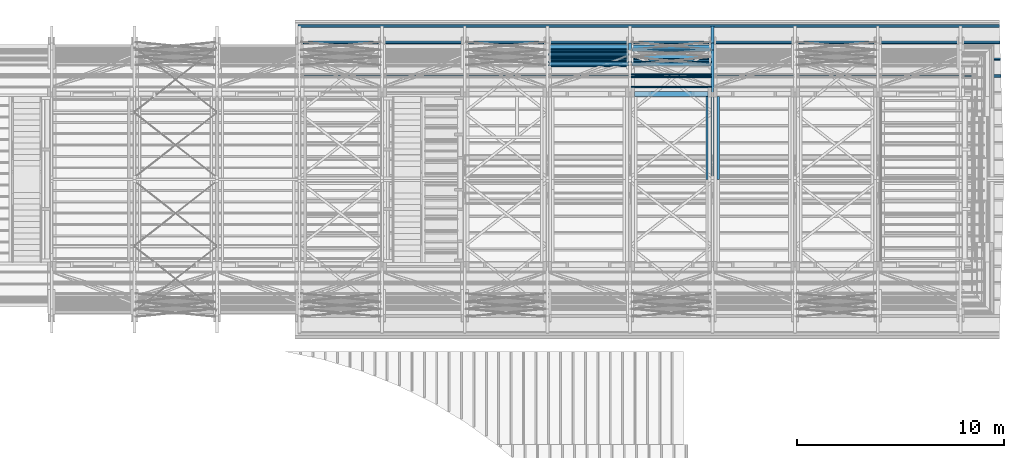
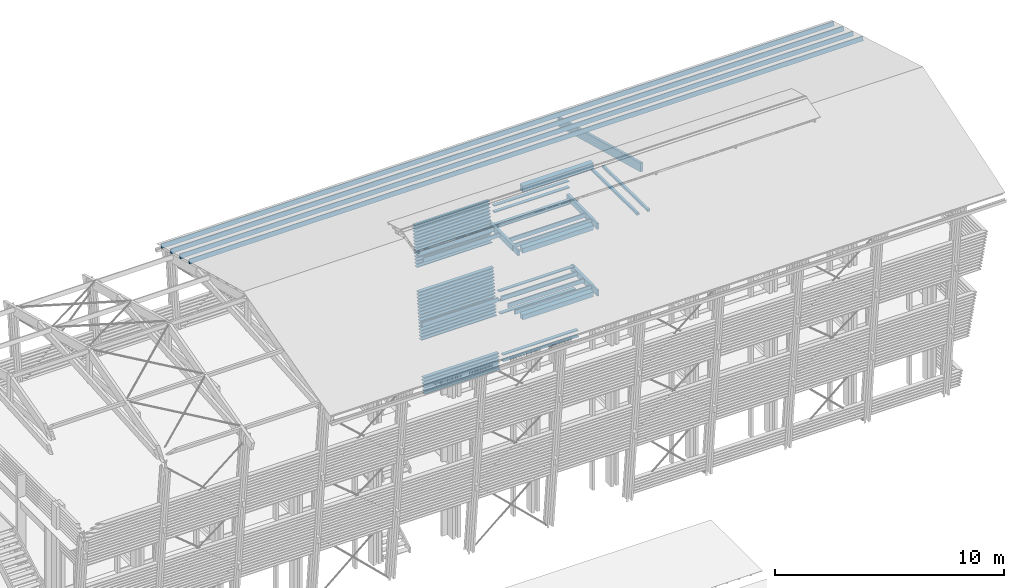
# One storey, part 24 of 48: 66 beams.
"""IFC2X3 building model written with IfcOpenShell, lengths in metres."""

from ifc_helpers import new_model, si_unit, direction, frame, origin_with_axes, place, context, subcontext, project, spatial, faceted_brep, material, element, save


model = new_model("IFC2X3")

# Units and contexts
model_context = context("Model", 3, precision=1e-06, world=origin_with_axes(), true_north=direction((0.0, 1.0, 0.0)))
body_context = subcontext(model_context, "Body", "Model", "MODEL_VIEW")
ifc_project = project(units=[si_unit("LENGTHUNIT", "METRE"), si_unit("AREAUNIT", "SQUARE_METRE"), si_unit("VOLUMEUNIT", "CUBIC_METRE"), si_unit("PLANEANGLEUNIT", "RADIAN")], contexts=[model_context])

# Site, building, storey
site_placement = place(None, origin_with_axes())
site = spatial("IfcSite", under=ifc_project, at=site_placement, CompositionType="ELEMENT")
building_placement = place(site_placement, origin_with_axes())
building = spatial("IfcBuilding", under=site, at=building_placement, Name="Building 1", CompositionType="ELEMENT")
storey_placement = place(building_placement, origin_with_axes())
storey = spatial("IfcBuildingStorey", under=building, at=storey_placement, Name="Storey 1", CompositionType="ELEMENT", Elevation=0.0)

# Beams
ifc_material_1 = material(Name="Moabi")
beam_1_placement = place(storey_placement, frame((57.3927441, -182.8370582, 8.3510909), z_axis=(0.0, -0.9945219, 0.1045285), x_axis=(-1.0, 0.0, 0.0)))
element("IfcBeam", 1, at=beam_1_placement, inside=storey, material=ifc_material_1, Name="garde corp", context=body_context, shape_type="Brep", body=[
    faceted_brep([(3.806, -0.02, 0.1), (3.806, 0.02, 0.1), (0.0, 0.02, 0.1), (0.0, -0.02, 0.1), (3.806, 0.02, -0.1), (0.0, 0.02, -0.1), (3.806, -0.02, -0.1), (0.0, -0.02, -0.1)], [[[0, 1, 2, 3]], [[1, 4, 5, 2]], [[4, 6, 7, 5]], [[6, 0, 3, 7]], [[1, 0, 6, 4]], [[7, 3, 2, 5]]]),
])
ifc_material_2 = material(Name="GL28h")
beam_2_placement = place(storey_placement, frame((57.4897437, -185.2264881, 7.649), z_axis=(0.0, 0.0, 1.0), x_axis=(0.0, 1.0, 0.0)))
element("IfcBeam", 2, at=beam_2_placement, inside=storey, material=ifc_material_2, Name="Sommier Coursive", context=body_context, shape_type="Brep", body=[
    faceted_brep([(0.0, -0.05, -0.16), (0.44, -0.05, -0.16), (0.44, -0.05, 0.16), (0.0, -0.05, 0.16), (0.44, -0.07, -0.16), (0.44, -0.07, 0.16), (0.0, 0.05, 0.16), (0.0, 0.05, -0.16), (2.6285375, -0.07, 0.16), (2.6285375, 0.07, 0.16), (0.44, 0.07, 0.16), (0.44, 0.05, 0.16), (0.44, 0.05, -0.16), (0.44, 0.07, -0.16), (2.6285375, -0.07, -0.16), (2.6285375, 0.07, -0.16)], [[[0, 1, 2, 3]], [[1, 4, 5, 2]], [[0, 3, 6, 7]], [[3, 2, 5, 8, 9, 10, 11, 6]], [[6, 11, 12, 7]], [[11, 10, 13, 12]], [[5, 4, 14, 8]], [[1, 0, 7, 12, 13, 15, 14, 4]], [[13, 10, 9, 15]], [[9, 8, 14, 15]]]),
])
for number, where, z_axis, x_axis, name in (
    (3, (57.3927441, -182.9039564, 7.7145968), (0.0, -0.9945219, 0.1045285), (-1.0, 0.0, 0.0), "garde corp"),
    (4, (57.3927441, -183.6231123, 0.8722862), (0.0, -0.9945219, 0.1045285), (-1.0, 0.0, 0.0), "garde corp"),
):
    element("IfcBeam", number, at=place(storey_placement, frame(where, z_axis=z_axis, x_axis=x_axis)), inside=storey, material=ifc_material_1, Name=name, context=body_context, shape_type="Brep", body=[
        faceted_brep([(3.806, -0.02, 0.1), (3.806, 0.02, 0.1), (0.0, 0.02, 0.1), (0.0, -0.02, 0.1), (3.806, 0.02, -0.1), (0.0, 0.02, -0.1), (3.806, -0.02, -0.1), (0.0, -0.02, -0.1)], [[[0, 1, 2, 3]], [[1, 4, 5, 2]], [[4, 6, 7, 5]], [[6, 0, 3, 7]], [[1, 0, 6, 4]], [[7, 3, 2, 5]]]),
    ])
beam_3_placement = place(storey_placement, frame((57.3927439, -183.2551721, 4.3730033), z_axis=(0.0, -0.9945219, 0.1045285), x_axis=(-1.0, 0.0, 0.0)))
element("IfcBeam", 5, at=beam_3_placement, inside=storey, material=ifc_material_1, Name="garde corp", context=body_context, shape_type="Brep", body=[
    faceted_brep([(3.8048051, -0.02, 0.1), (3.8048051, 0.02, 0.1), (0.0, 0.02, 0.1), (0.0, -0.02, 0.1), (3.8048051, 0.02, -0.1), (0.0, 0.02, -0.1), (3.8048051, -0.02, -0.1), (0.0, -0.02, -0.1)], [[[0, 1, 2, 3]], [[1, 4, 5, 2]], [[4, 6, 7, 5]], [[6, 0, 3, 7]], [[1, 0, 6, 4]], [[7, 3, 2, 5]]]),
])
beam_4_placement = place(storey_placement, frame((71.4526792, -184.200984, 12.1835011), z_axis=(0.0, 0.258819, 0.9659258), x_axis=(-1.0, 0.0, 0.0)))
element("IfcBeam", 6, at=beam_4_placement, inside=storey, material=ifc_material_2, Name="pannes", context=body_context, shape_type="Brep", body=[
    faceted_brep([(0.0016292, 0.035, 0.11), (0.0, 0.035, -0.11), (0.0019346, -0.035, -0.11), (0.0035637, -0.035, 0.11), (34.0329355, 0.035, -0.11), (34.0329355, -0.035, -0.11), (34.0329355, 0.035, 0.11), (34.0329355, -0.035, 0.11)], [[[0, 1, 2, 3]], [[2, 1, 4, 5]], [[1, 0, 6, 4]], [[0, 3, 7, 6]], [[3, 2, 5, 7]], [[4, 6, 7, 5]]]),
])
beam_5_placement = place(storey_placement, frame((71.4068021, -182.5878878, 11.7512733), z_axis=(0.0, 0.258819, 0.9659258), x_axis=(-1.0, 0.0, 0.0)))
element("IfcBeam", 7, at=beam_5_placement, inside=storey, material=ifc_material_2, Name="pannes", context=body_context, shape_type="Brep", body=[
    faceted_brep([(0.0041165, -0.045, 0.11), (0.0016292, 0.045, 0.11), (0.0, 0.045, -0.11), (0.0024873, -0.045, -0.11), (33.9870584, 0.045, 0.11), (33.9870584, 0.045, -0.11), (33.9870584, -0.045, 0.11), (33.9870584, -0.045, -0.11)], [[[0, 1, 2, 3]], [[2, 1, 4, 5]], [[1, 0, 6, 4]], [[0, 3, 7, 6]], [[3, 2, 5, 7]], [[4, 6, 7, 5]]]),
])
beam_6_placement = place(storey_placement, frame((71.4296024, -183.3944359, 11.9673872), z_axis=(0.0, 0.258819, 0.9659258), x_axis=(-1.0, 0.0, 0.0)))
element("IfcBeam", 8, at=beam_6_placement, inside=storey, material=ifc_material_2, Name="pannes", context=body_context, shape_type="Brep", body=[
    faceted_brep([(0.0016292, 0.035, 0.11), (0.0, 0.035, -0.11), (0.0019346, -0.035, -0.11), (0.0035637, -0.035, 0.11), (34.0098587, 0.035, -0.11), (34.0098587, -0.035, -0.11), (34.0098587, 0.035, 0.11), (34.0098587, -0.035, 0.11)], [[[0, 1, 2, 3]], [[2, 1, 4, 5]], [[1, 0, 6, 4]], [[0, 3, 7, 6]], [[3, 2, 5, 7]], [[4, 6, 7, 5]]]),
])
beam_7_placement = place(storey_placement, frame((71.383449, -181.7813398, 11.5351594), z_axis=(0.0, 0.258819, 0.9659258), x_axis=(-1.0, 0.0, 0.0)))
element("IfcBeam", 9, at=beam_7_placement, inside=storey, material=ifc_material_2, Name="pannes", context=body_context, shape_type="Brep", body=[
    faceted_brep([(0.0, 0.035, -0.11), (0.0019346, -0.035, -0.11), (0.0035637, -0.035, 0.11), (0.0016292, 0.035, 0.11), (33.9637053, -0.035, -0.11), (33.9637053, -0.035, 0.11), (33.9637053, 0.035, -0.11), (33.9637053, 0.035, 0.11)], [[[0, 1, 2, 3]], [[2, 1, 4, 5]], [[1, 0, 6, 4]], [[0, 3, 7, 6]], [[3, 2, 5, 7]], [[6, 7, 5, 4]]]),
])
beam_8_placement = place(storey_placement, frame((57.2197437, -185.2055702, 10.7599677), z_axis=(0.0, 0.0149983, 0.9998875), x_axis=(0.0, -0.9998875, 0.0149983)))
element("IfcBeam", 10, at=beam_8_placement, inside=storey, material=ifc_material_2, Name="Sous-glace", context=body_context, shape_type="Brep", body=[
    faceted_brep([(4.0038138, -0.06, 0.06), (4.0020138, -0.06, -0.06), (4.0020138, 0.06, -0.06), (4.0038138, 0.06, 0.06), (0.0, -0.06, -0.06), (0.0, 0.06, -0.06), (0.0018, -0.06, 0.06), (0.0018, 0.06, 0.06)], [[[0, 1, 2, 3]], [[2, 1, 4, 5]], [[1, 0, 6, 4]], [[5, 4, 6, 7]], [[0, 3, 7, 6]], [[3, 2, 5, 7]]]),
])
beam_9_placement = place(storey_placement, frame((57.3927437, -182.8036091, 8.6693379), z_axis=(0.0, -0.9945219, 0.1045285), x_axis=(-1.0, 0.0, 0.0)))
element("IfcBeam", 11, at=beam_9_placement, inside=storey, material=ifc_material_1, Name="garde corp", context=body_context, shape_type="Brep", body=[
    faceted_brep([(3.806, -0.02, 0.1), (3.806, 0.02, 0.1), (0.0, 0.02, 0.1), (0.0, -0.02, 0.1), (3.806, 0.02, -0.1), (0.0, 0.02, -0.1), (3.806, -0.02, -0.1), (0.0, -0.02, -0.1)], [[[0, 1, 2, 3]], [[1, 4, 5, 2]], [[4, 6, 7, 5]], [[6, 0, 3, 7]], [[1, 0, 6, 4]], [[7, 3, 2, 5]]]),
])
beam_10_placement = place(storey_placement, frame((57.7597437, -185.2055702, 10.7599682), z_axis=(0.0, 0.0149983, 0.9998875), x_axis=(0.0, -0.9998875, 0.0149983)))
element("IfcBeam", 12, at=beam_10_placement, inside=storey, material=ifc_material_2, Name="Sous-glace", context=body_context, shape_type="Brep", body=[
    faceted_brep([(4.0038138, -0.06, 0.06), (4.0020138, -0.06, -0.06), (4.0020138, 0.06, -0.06), (4.0038138, 0.06, 0.06), (0.0, -0.06, -0.06), (0.0, 0.06, -0.06), (0.0018, -0.06, 0.06), (0.0018, 0.06, 0.06)], [[[0, 1, 2, 3]], [[2, 1, 4, 5]], [[1, 0, 6, 4]], [[5, 4, 6, 7]], [[0, 3, 7, 6]], [[3, 2, 5, 7]]]),
])
beam_11_placement = place(storey_placement, frame((53.5597437, -183.5174506, 4.139), z_axis=(0.0, 0.0, 1.0), x_axis=(1.0, 0.0, 0.0)))
element("IfcBeam", 13, at=beam_11_placement, inside=storey, material=ifc_material_2, Name="Solive", context=body_context, shape_type="Brep", body=[
    faceted_brep([(3.86, 0.035, 0.11), (3.86, 0.035, -0.11), (0.0, 0.035, -0.11), (0.0, 0.035, 0.11), (3.86, -0.035, -0.11), (0.0, -0.035, -0.11), (3.86, -0.035, 0.11), (0.0, -0.035, 0.11)], [[[0, 1, 2, 3]], [[1, 4, 5, 2]], [[4, 6, 7, 5]], [[6, 0, 3, 7]], [[1, 0, 6, 4]], [[7, 3, 2, 5]]]),
])
beam_12_placement = place(storey_placement, frame((53.3927437, -182.8036091, 8.6693379), z_axis=(0.0, -0.9945219, 0.1045285), x_axis=(-1.0, 0.0, 0.0)))
element("IfcBeam", 14, at=beam_12_placement, inside=storey, material=ifc_material_1, Name="garde corp", context=body_context, shape_type="Brep", body=[
    faceted_brep([(3.806, -0.02, 0.1), (3.806, 0.02, 0.1), (0.0, 0.02, 0.1), (0.0, -0.02, 0.1), (3.806, 0.02, -0.1), (0.0, 0.02, -0.1), (3.806, -0.02, -0.1), (0.0, -0.02, -0.1)], [[[0, 1, 2, 3]], [[1, 4, 5, 2]], [[4, 6, 7, 5]], [[6, 0, 3, 7]], [[1, 0, 6, 4]], [[7, 3, 2, 5]]]),
])
beam_13_placement = place(storey_placement, frame((53.3927439, -183.3220703, 3.7365093), z_axis=(0.0, -0.9945219, 0.1045285), x_axis=(-1.0, 0.0, 0.0)))
element("IfcBeam", 15, at=beam_13_placement, inside=storey, material=ifc_material_1, Name="garde corp", context=body_context, shape_type="Brep", body=[
    faceted_brep([(3.8047073, -0.02, 0.1), (3.8047077, 0.02, 0.1), (0.0, 0.02, 0.1), (0.0, -0.02, 0.1), (3.8047077, 0.02, -0.1), (0.0, 0.02, -0.1), (3.8047077, -0.02, -0.1), (0.0, -0.02, -0.1)], [[[0, 1, 2, 3]], [[1, 4, 5, 2]], [[4, 6, 7, 5]], [[6, 0, 3, 7]], [[1, 0, 6, 4]], [[7, 3, 2, 5]]]),
])
beam_14_placement = place(storey_placement, frame((53.3927439, -183.1715493, 5.1686208), z_axis=(0.0, -0.9945219, 0.1045285), x_axis=(-1.0, 0.0, 0.0)))
element("IfcBeam", 16, at=beam_14_placement, inside=storey, material=ifc_material_1, Name="garde corp", context=body_context, shape_type="Brep", body=[
    faceted_brep([(3.8048053, -0.02, 0.1), (3.8048053, 0.02, 0.1), (0.0, 0.02, 0.1), (0.0, -0.02, 0.1), (3.8048051, 0.02, -0.1), (0.0, 0.02, -0.1), (3.8048053, -0.02, -0.1), (0.0, -0.02, -0.1)], [[[0, 1, 2, 3]], [[1, 4, 5, 2]], [[4, 6, 7, 5]], [[6, 0, 3, 7]], [[1, 0, 6, 4]], [[7, 3, 2, 5]]]),
])
beam_15_placement = place(storey_placement, frame((53.3927441, -183.6231123, 0.8722862), z_axis=(0.0, -0.9945219, 0.1045285), x_axis=(-1.0, 0.0, 0.0)))
element("IfcBeam", 17, at=beam_15_placement, inside=storey, material=ifc_material_1, Name="garde corp", context=body_context, shape_type="Brep", body=[
    faceted_brep([(3.806, -0.02, 0.1), (3.806, 0.02, 0.1), (0.0, 0.02, 0.1), (0.0, -0.02, 0.1), (3.806, 0.02, -0.1), (0.0, 0.02, -0.1), (3.806, -0.02, -0.1), (0.0, -0.02, -0.1)], [[[0, 1, 2, 3]], [[1, 4, 5, 2]], [[4, 6, 7, 5]], [[6, 0, 3, 7]], [[1, 0, 6, 4]], [[7, 3, 2, 5]]]),
])
beam_16_placement = place(storey_placement, frame((57.3927439, -183.3722439, 3.2591388), z_axis=(0.0, -0.9945219, 0.1045285), x_axis=(-1.0, 0.0, 0.0)))
element("IfcBeam", 18, at=beam_16_placement, inside=storey, material=ifc_material_1, Name="garde corp", context=body_context, shape_type="Brep", body=[
    faceted_brep([(3.8048051, -0.02, 0.1), (3.8048051, 0.02, 0.1), (0.0, 0.02, 0.1), (0.0, -0.02, 0.1), (3.8048051, 0.02, -0.1), (0.0, 0.02, -0.1), (3.8048051, -0.02, -0.1), (0.0, -0.02, -0.1)], [[[0, 1, 2, 3]], [[1, 4, 5, 2]], [[4, 6, 7, 5]], [[6, 0, 3, 7]], [[1, 0, 6, 4]], [[7, 3, 2, 5]]]),
])
beam_17_placement = place(storey_placement, frame((57.3927439, -183.3053457, 3.8956328), z_axis=(0.0, -0.9945219, 0.1045285), x_axis=(-1.0, 0.0, 0.0)))
element("IfcBeam", 19, at=beam_17_placement, inside=storey, material=ifc_material_1, Name="garde corp", context=body_context, shape_type="Brep", body=[
    faceted_brep([(3.8047073, -0.02, 0.1), (3.8047075, 0.02, 0.1), (0.0, 0.02, 0.1), (0.0, -0.02, 0.1), (3.8047077, 0.02, -0.1), (0.0, 0.02, -0.1), (3.8047077, -0.02, -0.1), (0.0, -0.02, -0.1)], [[[0, 1, 2, 3]], [[1, 4, 5, 2]], [[4, 6, 7, 5]], [[6, 0, 3, 7]], [[1, 0, 6, 4]], [[7, 3, 2, 5]]]),
])
for number, where, z_axis, x_axis, name in (
    (20, (57.3927441, -182.920681, 7.5554733), (0.0, -0.9945219, 0.1045285), (-1.0, 0.0, 0.0), "garde corp"),
    (21, (57.3927441, -183.5896631, 1.1905332), (0.0, -0.9945219, 0.1045285), (-1.0, 0.0, 0.0), "garde corp"),
    (22, (53.3927441, -183.6398368, 0.7131627), (0.0, -0.9945219, 0.1045285), (-1.0, 0.0, 0.0), "garde corp"),
    (23, (53.3927441, -183.6063877, 1.0314097), (0.0, -0.9945219, 0.1045285), (-1.0, 0.0, 0.0), "garde corp"),
    (24, (53.3927441, -183.5729386, 1.3496567), (0.0, -0.9945219, 0.1045285), (-1.0, 0.0, 0.0), "garde corp"),
):
    element("IfcBeam", number, at=place(storey_placement, frame(where, z_axis=z_axis, x_axis=x_axis)), inside=storey, material=ifc_material_1, Name=name, context=body_context, shape_type="Brep", body=[
        faceted_brep([(3.806, -0.02, 0.1), (3.806, 0.02, 0.1), (0.0, 0.02, 0.1), (0.0, -0.02, 0.1), (3.806, 0.02, -0.1), (0.0, 0.02, -0.1), (3.806, -0.02, -0.1), (0.0, -0.02, -0.1)], [[[0, 1, 2, 3]], [[1, 4, 5, 2]], [[4, 6, 7, 5]], [[6, 0, 3, 7]], [[1, 0, 6, 4]], [[7, 3, 2, 5]]]),
    ])
beam_18_placement = place(storey_placement, frame((53.3927439, -183.3387948, 3.5773858), z_axis=(0.0, -0.9945219, 0.1045285), x_axis=(-1.0, 0.0, 0.0)))
element("IfcBeam", 25, at=beam_18_placement, inside=storey, material=ifc_material_1, Name="garde corp", context=body_context, shape_type="Brep", body=[
    faceted_brep([(3.8047077, -0.02, 0.1), (3.8047077, 0.02, 0.1), (0.0, 0.02, 0.1), (0.0, -0.02, 0.1), (3.8047077, 0.02, -0.1), (0.0, 0.02, -0.1), (3.8047077, -0.02, -0.1), (0.0, -0.02, -0.1)], [[[0, 1, 2, 3]], [[1, 4, 5, 2]], [[4, 6, 7, 5]], [[6, 0, 3, 7]], [[1, 0, 6, 4]], [[7, 3, 2, 5]]]),
])
beam_19_placement = place(storey_placement, frame((53.3927439, -183.3053457, 3.8956328), z_axis=(0.0, -0.9945219, 0.1045285), x_axis=(-1.0, 0.0, 0.0)))
element("IfcBeam", 26, at=beam_19_placement, inside=storey, material=ifc_material_1, Name="garde corp", context=body_context, shape_type="Brep", body=[
    faceted_brep([(3.8047073, -0.02, 0.1), (3.8047075, 0.02, 0.1), (0.0, 0.02, 0.1), (0.0, -0.02, 0.1), (3.8047077, 0.02, -0.1), (0.0, 0.02, -0.1), (3.8047077, -0.02, -0.1), (0.0, -0.02, -0.1)], [[[0, 1, 2, 3]], [[1, 4, 5, 2]], [[4, 6, 7, 5]], [[6, 0, 3, 7]], [[1, 0, 6, 4]], [[7, 3, 2, 5]]]),
])
beam_20_placement = place(storey_placement, frame((53.3927441, -183.6565614, 0.5540392), z_axis=(0.0, -0.9945219, 0.1045285), x_axis=(-1.0, 0.0, 0.0)))
element("IfcBeam", 27, at=beam_20_placement, inside=storey, material=ifc_material_1, Name="garde corp", context=body_context, shape_type="Brep", body=[
    faceted_brep([(3.806, -0.02, 0.1), (3.806, 0.02, 0.1), (0.0, 0.02, 0.1), (0.0, -0.02, 0.1), (3.806, 0.02, -0.1), (0.0, 0.02, -0.1), (3.806, -0.02, -0.1), (0.0, -0.02, -0.1)], [[[0, 1, 2, 3]], [[1, 4, 5, 2]], [[4, 6, 7, 5]], [[6, 0, 3, 7]], [[1, 0, 6, 4]], [[7, 3, 2, 5]]]),
])
beam_21_placement = place(storey_placement, frame((53.3927439, -183.3722439, 3.2591388), z_axis=(0.0, -0.9945219, 0.1045285), x_axis=(-1.0, 0.0, 0.0)))
element("IfcBeam", 28, at=beam_21_placement, inside=storey, material=ifc_material_1, Name="garde corp", context=body_context, shape_type="Brep", body=[
    faceted_brep([(3.8048051, -0.02, 0.1), (3.8048051, 0.02, 0.1), (0.0, 0.02, 0.1), (0.0, -0.02, 0.1), (3.8048051, 0.02, -0.1), (0.0, 0.02, -0.1), (3.8048051, -0.02, -0.1), (0.0, -0.02, -0.1)], [[[0, 1, 2, 3]], [[1, 4, 5, 2]], [[4, 6, 7, 5]], [[6, 0, 3, 7]], [[1, 0, 6, 4]], [[7, 3, 2, 5]]]),
])
beam_22_placement = place(storey_placement, frame((53.3927441, -182.9541301, 7.2372263), z_axis=(0.0, -0.9945219, 0.1045285), x_axis=(-1.0, 0.0, 0.0)))
element("IfcBeam", 29, at=beam_22_placement, inside=storey, material=ifc_material_1, Name="garde corp", context=body_context, shape_type="Brep", body=[
    faceted_brep([(3.806, -0.02, 0.1), (3.806, 0.02, 0.1), (0.0, 0.02, 0.1), (0.0, -0.02, 0.1), (3.806, 0.02, -0.1), (0.0, 0.02, -0.1), (3.806, -0.02, -0.1), (0.0, -0.02, -0.1)], [[[0, 1, 2, 3]], [[1, 4, 5, 2]], [[4, 6, 7, 5]], [[6, 0, 3, 7]], [[1, 0, 6, 4]], [[7, 3, 2, 5]]]),
])
beam_23_placement = place(storey_placement, frame((53.3927439, -183.1381002, 5.4868678), z_axis=(0.0, -0.9945219, 0.1045285), x_axis=(-1.0, 0.0, 0.0)))
element("IfcBeam", 30, at=beam_23_placement, inside=storey, material=ifc_material_1, Name="garde corp", context=body_context, shape_type="Brep", body=[
    faceted_brep([(3.8047071, -0.02, 0.1), (3.8047079, 0.02, 0.1), (0.0, 0.02, 0.1), (0.0, -0.02, 0.1), (3.8047077, 0.02, -0.1), (0.0, 0.02, -0.1), (3.8047071, -0.02, -0.1), (0.0, -0.02, -0.1)], [[[0, 1, 2, 3]], [[1, 4, 5, 2]], [[4, 6, 7, 5]], [[6, 0, 3, 7]], [[1, 0, 6, 4]], [[7, 3, 2, 5]]]),
])
beam_24_placement = place(storey_placement, frame((53.3927441, -182.920681, 7.5554733), z_axis=(0.0, -0.9945219, 0.1045285), x_axis=(-1.0, 0.0, 0.0)))
element("IfcBeam", 31, at=beam_24_placement, inside=storey, material=ifc_material_1, Name="garde corp", context=body_context, shape_type="Brep", body=[
    faceted_brep([(3.806, -0.02, 0.1), (3.806, 0.02, 0.1), (0.0, 0.02, 0.1), (0.0, -0.02, 0.1), (3.806, 0.02, -0.1), (0.0, 0.02, -0.1), (3.806, -0.02, -0.1), (0.0, -0.02, -0.1)], [[[0, 1, 2, 3]], [[1, 4, 5, 2]], [[4, 6, 7, 5]], [[6, 0, 3, 7]], [[1, 0, 6, 4]], [[7, 3, 2, 5]]]),
])
beam_25_placement = place(storey_placement, frame((53.6997437, -185.0764881, 4.085), z_axis=(0.0, 0.0, 1.0), x_axis=(1.0, 0.0, 0.0)))
element("IfcBeam", 32, at=beam_25_placement, inside=storey, material=ifc_material_2, Name="Buton", context=body_context, shape_type="Brep", body=[
    faceted_brep([(0.0, 0.13, 0.13), (0.0, -0.13, 0.13), (3.58, -0.13, 0.13), (3.58, 0.13, 0.13), (0.0, -0.13, -0.13), (3.58, -0.13, -0.13), (0.0, 0.13, -0.13), (3.58, 0.13, -0.13)], [[[0, 1, 2, 3]], [[2, 1, 4, 5]], [[1, 0, 6, 4]], [[5, 4, 6, 7]], [[0, 3, 7, 6]], [[3, 2, 5, 7]]]),
])
beam_26_placement = place(storey_placement, frame((53.3927439, -183.1213756, 5.6459913), z_axis=(0.0, -0.9945219, 0.1045285), x_axis=(-1.0, 0.0, 0.0)))
element("IfcBeam", 33, at=beam_26_placement, inside=storey, material=ifc_material_1, Name="garde corp", context=body_context, shape_type="Brep", body=[
    faceted_brep([(3.8048053, -0.02, 0.1), (3.8048053, 0.02, 0.1), (0.0, 0.02, 0.1), (0.0, -0.02, 0.1), (3.8048051, 0.02, -0.1), (0.0, 0.02, -0.1), (3.8048053, -0.02, -0.1), (0.0, -0.02, -0.1)], [[[0, 1, 2, 3]], [[1, 4, 5, 2]], [[4, 6, 7, 5]], [[6, 0, 3, 7]], [[1, 0, 6, 4]], [[7, 3, 2, 5]]]),
])
beam_27_placement = place(storey_placement, frame((53.3927439, -183.1882738, 5.0094973), z_axis=(0.0, -0.9945219, 0.1045285), x_axis=(-1.0, 0.0, 0.0)))
element("IfcBeam", 34, at=beam_27_placement, inside=storey, material=ifc_material_1, Name="garde corp", context=body_context, shape_type="Brep", body=[
    faceted_brep([(3.8047077, -0.02, 0.1), (3.8047077, 0.02, 0.1), (0.0, 0.02, 0.1), (0.0, -0.02, 0.1), (3.8047077, 0.02, -0.1), (0.0, 0.02, -0.1), (3.8047077, -0.02, -0.1), (0.0, -0.02, -0.1)], [[[0, 1, 2, 3]], [[1, 4, 5, 2]], [[4, 6, 7, 5]], [[6, 0, 3, 7]], [[1, 0, 6, 4]], [[7, 3, 2, 5]]]),
])
beam_28_placement = place(storey_placement, frame((53.3927441, -182.8203337, 8.5102144), z_axis=(0.0, -0.9945219, 0.1045285), x_axis=(-1.0, 0.0, 0.0)))
element("IfcBeam", 35, at=beam_28_placement, inside=storey, material=ifc_material_1, Name="garde corp", context=body_context, shape_type="Brep", body=[
    faceted_brep([(3.806, -0.02, 0.1), (3.806, 0.02, 0.1), (0.0, 0.02, 0.1), (0.0, -0.02, 0.1), (3.806, 0.02, -0.1), (0.0, 0.02, -0.1), (3.806, -0.02, -0.1), (0.0, -0.02, -0.1)], [[[0, 1, 2, 3]], [[1, 4, 5, 2]], [[4, 6, 7, 5]], [[6, 0, 3, 7]], [[1, 0, 6, 4]], [[7, 3, 2, 5]]]),
])
beam_29_placement = place(storey_placement, frame((53.3927439, -183.1548247, 5.3277443), z_axis=(0.0, -0.9945219, 0.1045285), x_axis=(-1.0, 0.0, 0.0)))
element("IfcBeam", 36, at=beam_29_placement, inside=storey, material=ifc_material_1, Name="garde corp", context=body_context, shape_type="Brep", body=[
    faceted_brep([(3.8048053, -0.02, 0.1), (3.8048053, 0.02, 0.1), (0.0, 0.02, 0.1), (0.0, -0.02, 0.1), (3.8048051, 0.02, -0.1), (0.0, 0.02, -0.1), (3.8048053, -0.02, -0.1), (0.0, -0.02, -0.1)], [[[0, 1, 2, 3]], [[1, 4, 5, 2]], [[4, 6, 7, 5]], [[6, 0, 3, 7]], [[1, 0, 6, 4]], [[7, 3, 2, 5]]]),
])
beam_30_placement = place(storey_placement, frame((49.5597437, -183.1714881, 7.699), z_axis=(0.0, 0.0, 1.0), x_axis=(1.0, 0.0, 0.0)))
element("IfcBeam", 37, at=beam_30_placement, inside=storey, material=ifc_material_2, Name="Solive", context=body_context, shape_type="Brep", body=[
    faceted_brep([(3.86, 0.035, 0.11), (3.86, 0.035, -0.11), (0.0, 0.035, -0.11), (0.0, 0.035, 0.11), (3.86, -0.035, -0.11), (0.0, -0.035, -0.11), (3.86, -0.035, 0.11), (0.0, -0.035, 0.11)], [[[0, 1, 2, 3]], [[1, 4, 5, 2]], [[4, 6, 7, 5]], [[6, 0, 3, 7]], [[1, 0, 6, 4]], [[7, 3, 2, 5]]]),
])
beam_31_placement = place(storey_placement, frame((53.3927441, -183.5896631, 1.1905332), z_axis=(0.0, -0.9945219, 0.1045285), x_axis=(-1.0, 0.0, 0.0)))
element("IfcBeam", 38, at=beam_31_placement, inside=storey, material=ifc_material_1, Name="garde corp", context=body_context, shape_type="Brep", body=[
    faceted_brep([(3.806, -0.02, 0.1), (3.806, 0.02, 0.1), (0.0, 0.02, 0.1), (0.0, -0.02, 0.1), (3.806, 0.02, -0.1), (0.0, 0.02, -0.1), (3.806, -0.02, -0.1), (0.0, -0.02, -0.1)], [[[0, 1, 2, 3]], [[1, 4, 5, 2]], [[4, 6, 7, 5]], [[6, 0, 3, 7]], [[1, 0, 6, 4]], [[7, 3, 2, 5]]]),
])
beam_32_placement = place(storey_placement, frame((53.3927439, -183.3555194, 3.4182623), z_axis=(0.0, -0.9945219, 0.1045285), x_axis=(-1.0, 0.0, 0.0)))
element("IfcBeam", 39, at=beam_32_placement, inside=storey, material=ifc_material_1, Name="garde corp", context=body_context, shape_type="Brep", body=[
    faceted_brep([(3.8047073, -0.02, 0.1), (3.8047077, 0.02, 0.1), (0.0, 0.02, 0.1), (0.0, -0.02, 0.1), (3.8047077, 0.02, -0.1), (0.0, 0.02, -0.1), (3.8047077, -0.02, -0.1), (0.0, -0.02, -0.1)], [[[0, 1, 2, 3]], [[1, 4, 5, 2]], [[4, 6, 7, 5]], [[6, 0, 3, 7]], [[1, 0, 6, 4]], [[7, 3, 2, 5]]]),
])
beam_33_placement = place(storey_placement, frame((53.5596481, -184.7314881, 7.699), z_axis=(0.0, 0.0, 1.0), x_axis=(1.0, 0.0, 0.0)))
element("IfcBeam", 40, at=beam_33_placement, inside=storey, material=ifc_material_2, Name="Solive", context=body_context, shape_type="Brep", body=[
    faceted_brep([(3.8600004, -0.035, -0.11), (3.8600956, 0.035, -0.11), (3.8600956, 0.035, 0.11), (3.8600004, -0.035, 0.11), (0.0, 0.035, -0.11), (0.0, 0.035, 0.11), (0.0, -0.035, -0.11), (0.0, -0.035, 0.11)], [[[0, 1, 2, 3]], [[2, 1, 4, 5]], [[1, 0, 6, 4]], [[0, 3, 7, 6]], [[3, 2, 5, 7]], [[7, 5, 4, 6]]]),
])
beam_34_placement = place(storey_placement, frame((53.3927441, -182.8872319, 7.8737203), z_axis=(0.0, -0.9945219, 0.1045285), x_axis=(-1.0, 0.0, 0.0)))
element("IfcBeam", 41, at=beam_34_placement, inside=storey, material=ifc_material_1, Name="garde corp", context=body_context, shape_type="Brep", body=[
    faceted_brep([(3.806, -0.02, 0.1), (3.806, 0.02, 0.1), (0.0, 0.02, 0.1), (0.0, -0.02, 0.1), (3.806, 0.02, -0.1), (0.0, 0.02, -0.1), (3.806, -0.02, -0.1), (0.0, -0.02, -0.1)], [[[0, 1, 2, 3]], [[1, 4, 5, 2]], [[4, 6, 7, 5]], [[6, 0, 3, 7]], [[1, 0, 6, 4]], [[7, 3, 2, 5]]]),
])
beam_35_placement = place(storey_placement, frame((49.5597433, -183.6814881, 7.699), z_axis=(0.0, 0.0, 1.0), x_axis=(1.0, 0.0, 0.0)))
element("IfcBeam", 42, at=beam_35_placement, inside=storey, material=ifc_material_2, Name="Solive", context=body_context, shape_type="Brep", body=[
    faceted_brep([(3.8600004, -0.035, -0.11), (3.8600004, 0.035, -0.11), (3.8600004, 0.035, 0.11), (3.8600004, -0.035, 0.11), (0.0, 0.035, -0.11), (0.0, 0.035, 0.11), (0.0, -0.035, -0.11), (0.0, -0.035, 0.11)], [[[0, 1, 2, 3]], [[2, 1, 4, 5]], [[1, 0, 6, 4]], [[0, 3, 7, 6]], [[3, 2, 5, 7]], [[7, 5, 4, 6]]]),
])
beam_36_placement = place(storey_placement, frame((53.5597437, -184.2514881, 7.699), z_axis=(0.0, 0.0, 1.0), x_axis=(1.0, 0.0, 0.0)))
element("IfcBeam", 43, at=beam_36_placement, inside=storey, material=ifc_material_2, Name="Solive", context=body_context, shape_type="Brep", body=[
    faceted_brep([(3.86, 0.035, 0.11), (3.86, 0.035, -0.11), (0.0, 0.035, -0.11), (0.0, 0.035, 0.11), (3.86, -0.035, -0.11), (0.0, -0.035, -0.11), (3.86, -0.035, 0.11), (0.0, -0.035, 0.11)], [[[0, 1, 2, 3]], [[1, 4, 5, 2]], [[4, 6, 7, 5]], [[6, 0, 3, 7]], [[1, 0, 6, 4]], [[7, 3, 2, 5]]]),
])
beam_37_placement = place(storey_placement, frame((53.6997437, -185.0764881, 7.645), z_axis=(0.0, 0.0, 1.0), x_axis=(1.0, 0.0, 0.0)))
element("IfcBeam", 44, at=beam_37_placement, inside=storey, material=ifc_material_2, Name="Buton", context=body_context, shape_type="Brep", body=[
    faceted_brep([(0.0, 0.13, 0.13), (0.0, -0.13, 0.13), (3.58, -0.13, 0.13), (3.58, 0.13, 0.13), (0.0, -0.13, -0.13), (3.58, -0.13, -0.13), (0.0, 0.13, -0.13), (3.58, 0.13, -0.13)], [[[0, 1, 2, 3]], [[2, 1, 4, 5]], [[1, 0, 6, 4]], [[5, 4, 6, 7]], [[0, 3, 7, 6]], [[3, 2, 5, 7]]]),
])
beam_38_placement = place(storey_placement, frame((53.4897437, -185.2264881, 7.649), z_axis=(0.0, 0.0, 1.0), x_axis=(0.0, 1.0, 0.0)))
element("IfcBeam", 45, at=beam_38_placement, inside=storey, material=ifc_material_2, Name="Sommier Coursive", context=body_context, shape_type="Brep", body=[
    faceted_brep([(0.0, -0.05, -0.16), (0.44, -0.05, -0.16), (0.44, -0.05, 0.16), (0.0, -0.05, 0.16), (0.44, -0.07, -0.16), (0.44, -0.07, 0.16), (0.0, 0.05, 0.16), (0.0, 0.05, -0.16), (2.6285375, -0.07, 0.16), (2.6285375, 0.07, 0.16), (0.44, 0.07, 0.16), (0.44, 0.05, 0.16), (0.44, 0.05, -0.16), (0.44, 0.07, -0.16), (2.6285375, -0.07, -0.16), (2.6285375, 0.07, -0.16)], [[[0, 1, 2, 3]], [[1, 4, 5, 2]], [[0, 3, 6, 7]], [[3, 2, 5, 8, 9, 10, 11, 6]], [[6, 11, 12, 7]], [[11, 10, 13, 12]], [[5, 4, 14, 8]], [[1, 0, 7, 12, 13, 15, 14, 4]], [[13, 10, 9, 15]], [[9, 8, 14, 15]]]),
])
beam_39_placement = place(storey_placement, frame((57.4897437, -185.2264881, 4.089), z_axis=(0.0, 0.0, 1.0), x_axis=(0.0, 1.0, 0.0)))
element("IfcBeam", 46, at=beam_39_placement, inside=storey, material=ifc_material_2, Name="Sommier Coursive", context=body_context, shape_type="Brep", body=[
    faceted_brep([(0.0, 0.05, 0.16), (0.44, 0.05, 0.16), (0.44, 0.05, -0.16), (0.0, 0.05, -0.16), (0.44, 0.07, 0.16), (0.44, 0.07, -0.16), (0.0, -0.05, 0.16), (0.44, -0.05, 0.16), (0.44, -0.07, 0.16), (2.2900003, -0.07, 0.16), (2.2900003, 0.07, 0.16), (0.0, -0.05, -0.16), (0.44, -0.05, -0.16), (0.44, -0.07, -0.16), (2.2900003, 0.07, -0.16), (2.2900003, -0.07, -0.16)], [[[0, 1, 2, 3]], [[1, 4, 5, 2]], [[4, 1, 0, 6, 7, 8, 9, 10]], [[0, 3, 11, 6]], [[11, 12, 7, 6]], [[12, 13, 8, 7]], [[2, 5, 14, 15, 13, 12, 11, 3]], [[8, 13, 15, 9]], [[5, 4, 10, 14]], [[10, 9, 15, 14]]]),
])
beam_40_placement = place(storey_placement, frame((57.4897437, -181.8355309, 11.197686), z_axis=(0.0, 0.258819, 0.9659258), x_axis=(0.0, -0.9659258, 0.258819)))
element("IfcBeam", 47, at=beam_40_placement, inside=storey, material=ifc_material_2, Name="Arbalétrier", context=body_context, shape_type="Brep", body=[
    faceted_brep([(7.4053414, 0.07, -0.23), (7.5285981, 0.07, 0.23), (7.5285981, -0.07, 0.23), (7.4053414, -0.07, -0.23), (0.0, 0.07, 0.23), (0.0, -0.07, 0.23), (0.0, 0.07, -0.23), (0.0, -0.07, -0.23)], [[[0, 1, 2, 3]], [[2, 1, 4, 5]], [[1, 0, 6, 4]], [[0, 3, 7, 6]], [[3, 2, 5, 7]], [[6, 7, 5, 4]]]),
])
beam_41_placement = place(storey_placement, frame((53.6997437, -185.0764881, 10.94), z_axis=(0.0, 0.0, 1.0), x_axis=(1.0, 0.0, 0.0)))
element("IfcBeam", 48, at=beam_41_placement, inside=storey, material=ifc_material_2, Name="Buton", context=body_context, shape_type="Brep", body=[
    faceted_brep([(0.0, 0.13, 0.16), (0.0, -0.13, 0.16), (3.58, -0.13, 0.16), (3.58, 0.13, 0.16), (0.0, -0.13, -0.16), (3.58, -0.13, -0.16), (0.0, 0.13, -0.16), (3.58, 0.13, -0.16)], [[[0, 1, 2, 3]], [[2, 1, 4, 5]], [[1, 0, 6, 4]], [[5, 4, 6, 7]], [[3, 2, 5, 7]], [[0, 3, 7, 6]]]),
])
beam_42_placement = place(storey_placement, frame((53.3927439, -183.2049984, 4.8503738), z_axis=(0.0, -0.9945219, 0.1045285), x_axis=(-1.0, 0.0, 0.0)))
element("IfcBeam", 49, at=beam_42_placement, inside=storey, material=ifc_material_1, Name="garde corp", context=body_context, shape_type="Brep", body=[
    faceted_brep([(3.8048053, -0.02, 0.1), (3.8048053, 0.02, 0.1), (0.0, 0.02, 0.1), (0.0, -0.02, 0.1), (3.8048051, 0.02, -0.1), (0.0, 0.02, -0.1), (3.8048053, -0.02, -0.1), (0.0, -0.02, -0.1)], [[[0, 1, 2, 3]], [[1, 4, 5, 2]], [[4, 6, 7, 5]], [[6, 0, 3, 7]], [[1, 0, 6, 4]], [[7, 3, 2, 5]]]),
])
for number, where, z_axis, x_axis, name in (
    (50, (53.3927441, -182.9875792, 6.9189793), (0.0, -0.9945219, 0.1045285), (-1.0, 0.0, 0.0), "garde corp"),
    (51, (53.3927441, -182.9708546, 7.0781028), (0.0, -0.9945219, 0.1045285), (-1.0, 0.0, 0.0), "garde corp"),
):
    element("IfcBeam", number, at=place(storey_placement, frame(where, z_axis=z_axis, x_axis=x_axis)), inside=storey, material=ifc_material_1, Name=name, context=body_context, shape_type="Brep", body=[
        faceted_brep([(3.806, -0.02, 0.1), (3.806, 0.02, 0.1), (0.0, 0.02, 0.1), (0.0, -0.02, 0.1), (3.806, 0.02, -0.1), (0.0, 0.02, -0.1), (3.806, -0.02, -0.1), (0.0, -0.02, -0.1)], [[[0, 1, 2, 3]], [[1, 4, 5, 2]], [[4, 6, 7, 5]], [[6, 0, 3, 7]], [[1, 0, 6, 4]], [[7, 3, 2, 5]]]),
    ])
for number, where, z_axis, x_axis in (
    (52, (53.5597437, -184.7314881, 4.139), (0.0, 0.0, 1.0), (1.0, 0.0, 0.0)),
    (53, (49.5597437, -183.5174506, 4.139), (0.0, 0.0, 1.0), (1.0, 0.0, 0.0)),
    (54, (53.5597437, -184.1344693, 4.139), (0.0, 0.0, 1.0), (1.0, 0.0, 0.0)),
):
    element("IfcBeam", number, at=place(storey_placement, frame(where, z_axis=z_axis, x_axis=x_axis)), inside=storey, material=ifc_material_2, Name="Solive", context=body_context, shape_type="Brep", body=[
        faceted_brep([(3.86, 0.035, 0.11), (3.86, 0.035, -0.11), (0.0, 0.035, -0.11), (0.0, 0.035, 0.11), (3.86, -0.035, -0.11), (0.0, -0.035, -0.11), (3.86, -0.035, 0.11), (0.0, -0.035, 0.11)], [[[0, 1, 2, 3]], [[1, 4, 5, 2]], [[4, 6, 7, 5]], [[6, 0, 3, 7]], [[1, 0, 6, 4]], [[7, 3, 2, 5]]]),
    ])
beam_43_placement = place(storey_placement, frame((53.3927439, -183.2718966, 4.2138798), z_axis=(0.0, -0.9945219, 0.1045285), x_axis=(-1.0, 0.0, 0.0)))
element("IfcBeam", 55, at=beam_43_placement, inside=storey, material=ifc_material_1, Name="garde corp", context=body_context, shape_type="Brep", body=[
    faceted_brep([(3.8048051, -0.02, 0.1), (3.8048051, 0.02, 0.1), (0.0, 0.02, 0.1), (0.0, -0.02, 0.1), (3.8048051, 0.02, -0.1), (0.0, 0.02, -0.1), (3.8048051, -0.02, -0.1), (0.0, -0.02, -0.1)], [[[0, 1, 2, 3]], [[1, 4, 5, 2]], [[4, 6, 7, 5]], [[6, 0, 3, 7]], [[1, 0, 6, 4]], [[7, 3, 2, 5]]]),
])
beam_44_placement = place(storey_placement, frame((53.3927439, -183.221723, 4.6912503), z_axis=(0.0, -0.9945219, 0.1045285), x_axis=(-1.0, 0.0, 0.0)))
element("IfcBeam", 56, at=beam_44_placement, inside=storey, material=ifc_material_1, Name="garde corp", context=body_context, shape_type="Brep", body=[
    faceted_brep([(3.8047071, -0.02, 0.1), (3.8047079, 0.02, 0.1), (0.0, 0.02, 0.1), (0.0, -0.02, 0.1), (3.8047071, 0.02, -0.1), (0.0, 0.02, -0.1), (3.8047071, -0.02, -0.1), (0.0, -0.02, -0.1)], [[[0, 1, 2, 3]], [[1, 4, 5, 2]], [[4, 6, 7, 5]], [[6, 0, 3, 7]], [[1, 0, 6, 4]], [[7, 3, 2, 5]]]),
])
beam_45_placement = place(storey_placement, frame((53.3927439, -183.2886212, 4.0547563), z_axis=(0.0, -0.9945219, 0.1045285), x_axis=(-1.0, 0.0, 0.0)))
element("IfcBeam", 57, at=beam_45_placement, inside=storey, material=ifc_material_1, Name="garde corp", context=body_context, shape_type="Brep", body=[
    faceted_brep([(3.8048051, -0.02, 0.1), (3.8048051, 0.02, 0.1), (0.0, 0.02, 0.1), (0.0, -0.02, 0.1), (3.8048051, 0.02, -0.1), (0.0, 0.02, -0.1), (3.8048051, -0.02, -0.1), (0.0, -0.02, -0.1)], [[[0, 1, 2, 3]], [[1, 4, 5, 2]], [[4, 6, 7, 5]], [[6, 0, 3, 7]], [[1, 0, 6, 4]], [[7, 3, 2, 5]]]),
])
for number, where, z_axis, x_axis, name in (
    (58, (53.3927441, -182.7868846, 8.8284614), (0.0, -0.9945219, 0.1045285), (-1.0, 0.0, 0.0), "garde corp"),
    (59, (53.3927437, -182.77016, 8.9875849), (0.0, -0.9945219, 0.1045285), (-1.0, 0.0, 0.0), "garde corp"),
):
    element("IfcBeam", number, at=place(storey_placement, frame(where, z_axis=z_axis, x_axis=x_axis)), inside=storey, material=ifc_material_1, Name=name, context=body_context, shape_type="Brep", body=[
        faceted_brep([(3.806, -0.02, 0.1), (3.806, 0.02, 0.1), (0.0, 0.02, 0.1), (0.0, -0.02, 0.1), (3.806, 0.02, -0.1), (0.0, 0.02, -0.1), (3.806, -0.02, -0.1), (0.0, -0.02, -0.1)], [[[0, 1, 2, 3]], [[1, 4, 5, 2]], [[4, 6, 7, 5]], [[6, 0, 3, 7]], [[1, 0, 6, 4]], [[7, 3, 2, 5]]]),
    ])
beam_46_placement = place(storey_placement, frame((53.3927439, -183.2384475, 4.5321268), z_axis=(0.0, -0.9945219, 0.1045285), x_axis=(-1.0, 0.0, 0.0)))
element("IfcBeam", 60, at=beam_46_placement, inside=storey, material=ifc_material_1, Name="garde corp", context=body_context, shape_type="Brep", body=[
    faceted_brep([(3.8047077, -0.02, 0.1), (3.8047077, 0.02, 0.1), (0.0, 0.02, 0.1), (0.0, -0.02, 0.1), (3.8047077, 0.02, -0.1), (0.0, 0.02, -0.1), (3.8047077, -0.02, -0.1), (0.0, -0.02, -0.1)], [[[0, 1, 2, 3]], [[1, 4, 5, 2]], [[4, 6, 7, 5]], [[6, 0, 3, 7]], [[1, 0, 6, 4]], [[7, 3, 2, 5]]]),
])
for number, where, z_axis, x_axis, name in (
    (61, (53.3927441, -182.9039564, 7.7145968), (0.0, -0.9945219, 0.1045285), (-1.0, 0.0, 0.0), "garde corp"),
    (62, (53.3927441, -182.8537828, 8.1919674), (0.0, -0.9945219, 0.1045285), (-1.0, 0.0, 0.0), "garde corp"),
):
    element("IfcBeam", number, at=place(storey_placement, frame(where, z_axis=z_axis, x_axis=x_axis)), inside=storey, material=ifc_material_1, Name=name, context=body_context, shape_type="Brep", body=[
        faceted_brep([(3.806, -0.02, 0.1), (3.806, 0.02, 0.1), (0.0, 0.02, 0.1), (0.0, -0.02, 0.1), (3.806, 0.02, -0.1), (0.0, 0.02, -0.1), (3.806, -0.02, -0.1), (0.0, -0.02, -0.1)], [[[0, 1, 2, 3]], [[1, 4, 5, 2]], [[4, 6, 7, 5]], [[6, 0, 3, 7]], [[1, 0, 6, 4]], [[7, 3, 2, 5]]]),
    ])
beam_47_placement = place(storey_placement, frame((53.3927439, -183.2551721, 4.3730033), z_axis=(0.0, -0.9945219, 0.1045285), x_axis=(-1.0, 0.0, 0.0)))
element("IfcBeam", 63, at=beam_47_placement, inside=storey, material=ifc_material_1, Name="garde corp", context=body_context, shape_type="Brep", body=[
    faceted_brep([(3.8048051, -0.02, 0.1), (3.8048051, 0.02, 0.1), (0.0, 0.02, 0.1), (0.0, -0.02, 0.1), (3.8048051, 0.02, -0.1), (0.0, 0.02, -0.1), (3.8048051, -0.02, -0.1), (0.0, -0.02, -0.1)], [[[0, 1, 2, 3]], [[1, 4, 5, 2]], [[4, 6, 7, 5]], [[6, 0, 3, 7]], [[1, 0, 6, 4]], [[7, 3, 2, 5]]]),
])
for number, where, z_axis, x_axis, name in (
    (64, (53.3927441, -182.9374055, 7.3963498), (0.0, -0.9945219, 0.1045285), (-1.0, 0.0, 0.0), "garde corp"),
    (65, (53.3927441, -182.8370582, 8.3510909), (0.0, -0.9945219, 0.1045285), (-1.0, 0.0, 0.0), "garde corp"),
    (66, (53.3927437, -182.8705073, 8.0328439), (0.0, -0.9945219, 0.1045285), (-1.0, 0.0, 0.0), "garde corp"),
):
    element("IfcBeam", number, at=place(storey_placement, frame(where, z_axis=z_axis, x_axis=x_axis)), inside=storey, material=ifc_material_1, Name=name, context=body_context, shape_type="Brep", body=[
        faceted_brep([(3.806, -0.02, 0.1), (3.806, 0.02, 0.1), (0.0, 0.02, 0.1), (0.0, -0.02, 0.1), (3.806, 0.02, -0.1), (0.0, 0.02, -0.1), (3.806, -0.02, -0.1), (0.0, -0.02, -0.1)], [[[0, 1, 2, 3]], [[1, 4, 5, 2]], [[4, 6, 7, 5]], [[6, 0, 3, 7]], [[1, 0, 6, 4]], [[7, 3, 2, 5]]]),
    ])

save(model, "model.ifc")
